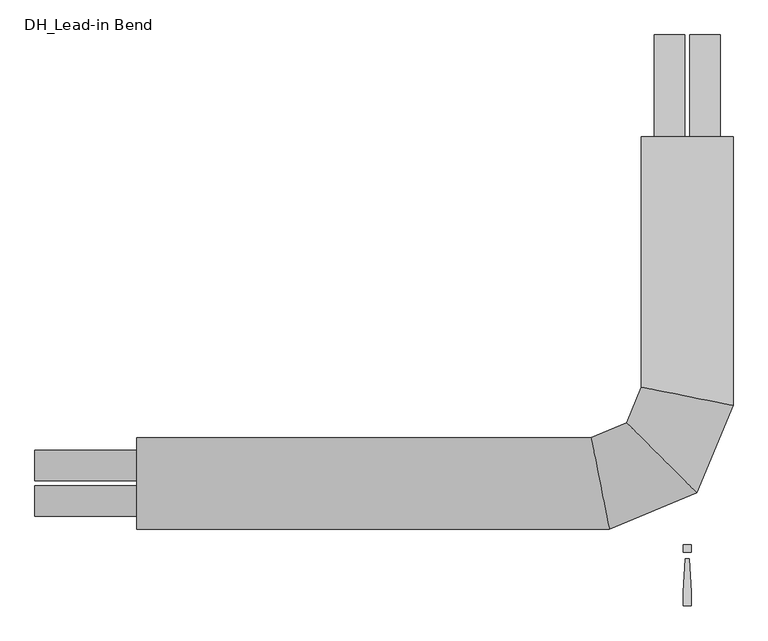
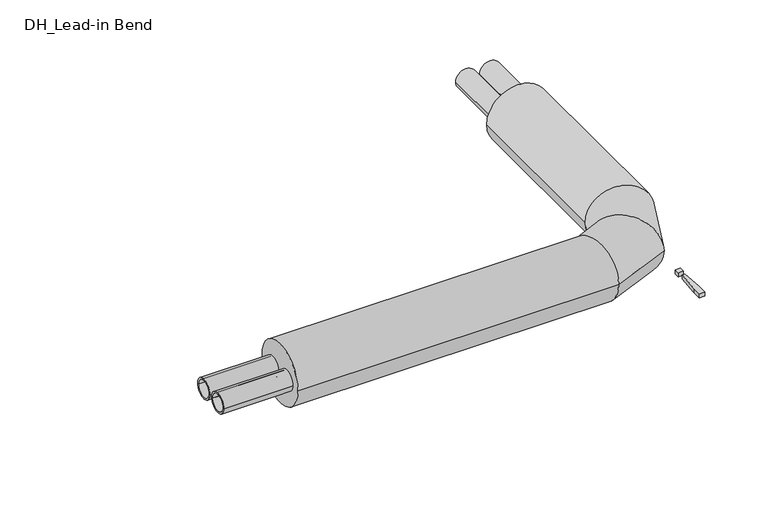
"""IFC4 building model written with IfcOpenShell, lengths in millimetres: pipe fitting geometry, DH_Lead-in Bend : RVT/RVX/RTX DUO 11 Heating Vertical."""

from ifc_helpers import new_model, si_unit, point, frame, frame_2d, origin, origin_with_axes, place, context, project, spatial, polyline, circle_curve, ellipse_curve, trimmed, segment, composite_curve, outline, extrude, source, transform, mapped, element, save
from ifc_brep_helpers import plane_surface, cylinder_surface, advanced_brep


def dh_lead_in_bend_53604a29(model_context):
    return source(origin(), model_context, "Body", "SolidModel", [
        extrude(outline(composite_curve([segment(trimmed(circle_curve(frame_2d((-43.5, 0.0)), 37.5), [point((-6.0, 0.0))], [point((-81.0, 0.0))], False, "CARTESIAN"), True, "CONTINUOUS"), segment(trimmed(circle_curve(frame_2d((-43.5, 0.0)), 37.5), [point((-81.0, 0.0))], [point((-6.0, 0.0))], False, "CARTESIAN"), True, "CONTINUOUS")], self_intersect=False), holes=[composite_curve([segment(trimmed(circle_curve(frame_2d((-43.5, 0.0)), 30.7), [point((-12.8, 0.0))], [point((-74.2, 0.0))], True, "CARTESIAN"), True, "CONTINUOUS"), segment(trimmed(circle_curve(frame_2d((-43.5, 0.0)), 30.7), [point((-74.2, 0.0))], [point((-12.8, 0.0))], True, "CARTESIAN"), True, "CONTINUOUS")], self_intersect=False)]), frame((-1600.0, 0.0, 0.0), z_axis=(1.0, 0.0, 0.0), x_axis=(0.0, 1.0, 0.0)), (0.0, 0.0, 1.0), 250.0),
        extrude(outline(composite_curve([segment(trimmed(circle_curve(frame_2d((0.0, -43.5)), 37.5), [point((0.0, -6.0))], [point((0.0, -81.0))], False, "CARTESIAN"), True, "CONTINUOUS"), segment(trimmed(circle_curve(frame_2d((0.0, -43.5)), 37.5), [point((0.0, -81.0))], [point((0.0, -6.0))], False, "CARTESIAN"), True, "CONTINUOUS")], self_intersect=False), holes=[composite_curve([segment(trimmed(circle_curve(frame_2d((0.0, -43.5)), 30.7), [point((0.0, -12.8))], [point((0.0, -74.2))], True, "CARTESIAN"), True, "CONTINUOUS"), segment(trimmed(circle_curve(frame_2d((0.0, -43.5)), 30.7), [point((0.0, -74.2))], [point((0.0, -12.8))], True, "CARTESIAN"), True, "CONTINUOUS")], self_intersect=False)]), frame((0.0, 850.0, 0.0), z_axis=(0.0, 1.0, 0.0), x_axis=(0.0, 0.0, 1.0)), (0.0, 0.0, 1.0), 250.0),
        advanced_brep(
        [(-1350.0, -112.5, 0.0), (-1350.0, 112.5, 0.0), (-191.3223587, -112.5, 0.0), (-236.0776413, 112.5, 0.0), (112.5, 850.0, 0.0), (-112.5, 850.0, 0.0), (-112.5, 236.0776413, 0.0), (112.5, 191.3223587, 0.0), (23.5124914, -23.5124914, 0.0), (-148.6950531, 148.6950531, 0.0)],
        [
            (0, 1, circle_curve(frame((-1350.0, 0.0, 0.0), z_axis=(-1.0, 0.0, 0.0), x_axis=(0.0, 1.0, 0.0)), 112.5)),
            (1, 0, circle_curve(frame((-1350.0, 0.0, 0.0), z_axis=(-1.0, 0.0, 0.0), x_axis=(0.0, 1.0, 0.0)), 112.5)),
            (0, 2),
            (2, 3, ellipse_curve(frame((-213.7, 0.0, 0.0), z_axis=(-0.9807852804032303, -0.19509032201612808, 0.0), x_axis=(-0.19509032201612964, 0.9807852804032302, 0.0)), 114.7040053, 112.5)),
            (3, 1),
            (3, 2, ellipse_curve(frame((-213.7, 0.0, 0.0), z_axis=(-0.9807852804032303, -0.19509032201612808, 0.0), x_axis=(-0.19509032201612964, 0.9807852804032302, 0.0)), 114.7040053, 112.5)),
            (4, 5, circle_curve(frame((0.0, 850.0, 0.0), z_axis=(0.0, 1.0, 0.0), x_axis=(-1.0, 0.0, 0.0)), 112.5)),
            (5, 4, circle_curve(frame((0.0, 850.0, 0.0), z_axis=(0.0, 1.0, 0.0), x_axis=(-1.0, 0.0, 0.0)), 112.5)),
            (6, 7, ellipse_curve(frame((0.0, 213.7, 0.0), z_axis=(0.19509032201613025, 0.98078528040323, 0.0), x_axis=(0.9807852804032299, -0.19509032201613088, 0.0)), 114.7040053, 112.5)),
            (7, 4),
            (5, 6),
            (7, 6, ellipse_curve(frame((0.0, 213.7, 0.0), z_axis=(0.19509032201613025, 0.98078528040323, 0.0), x_axis=(0.9807852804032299, -0.19509032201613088, 0.0)), 114.7040053, 112.5)),
            (2, 8),
            (8, 9, ellipse_curve(frame((-62.5912809, 62.5912809, 0.0), z_axis=(-0.707106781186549, -0.707106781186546, 0.0), x_axis=(-0.7071067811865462, 0.7071067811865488, 0.0)), 121.7691225, 112.5)),
            (9, 3),
            (9, 8, ellipse_curve(frame((-62.5912809, 62.5912809, 0.0), z_axis=(-0.707106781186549, -0.707106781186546, 0.0), x_axis=(-0.7071067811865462, 0.7071067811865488, 0.0)), 121.7691225, 112.5)),
            (8, 7),
            (6, 9),
        ],
        [
            plane_surface(frame((-1350.0, 0.0, 0.0), z_axis=(-1.0, 0.0, 0.0), x_axis=(0.0, 0.0, 1.0))),
            cylinder_surface(frame((-1350.0, 0.0, 0.0), z_axis=(-1.0, 0.0, 0.0), x_axis=(0.0, 1.0, 0.0)), 112.5),
            plane_surface(frame((0.0, 850.0, 0.0), z_axis=(0.0, 1.0, 0.0), x_axis=(0.0, 0.0, 1.0))),
            cylinder_surface(frame((0.0, 213.7, 0.0), z_axis=(0.0, -1.0, 0.0), x_axis=(-1.0, 0.0, 0.0)), 112.5),
            cylinder_surface(frame((-213.7, 0.0, 0.0), z_axis=(-0.9238795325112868, -0.3826834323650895, 0.0), x_axis=(-0.3826834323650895, 0.9238795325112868, 0.0)), 112.5),
            cylinder_surface(frame((-62.5912809, 62.5912809, 0.0), z_axis=(-0.38268343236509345, -0.9238795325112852, 0.0), x_axis=(-0.9238795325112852, 0.38268343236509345, 0.0)), 112.5),
        ],
        [
            (0, [[1, 2]]),
            (1, [[-1, 3, 4, 5]]),
            (1, [[-2, -5, 6, -3]]),
            (2, [[7, 8]]),
            (3, [[9, 10, -8, 11]]),
            (3, [[12, -11, -7, -10]]),
            (4, [[-4, 13, 14, 15]]),
            (4, [[-6, -15, 16, -13]]),
            (5, [[-14, 17, -9, 18]]),
            (5, [[-16, -18, -12, -17]]),
        ],
    ),
        extrude(outline(composite_curve([segment(trimmed(circle_curve(frame_2d((43.5, 0.0)), 37.5), [point((6.0, 0.0))], [point((81.0, 0.0))], False, "CARTESIAN"), True, "CONTINUOUS"), segment(trimmed(circle_curve(frame_2d((43.5, 0.0)), 37.5), [point((81.0, 0.0))], [point((6.0, 0.0))], False, "CARTESIAN"), True, "CONTINUOUS")], self_intersect=False), holes=[composite_curve([segment(trimmed(circle_curve(frame_2d((43.5, 0.0)), 30.7), [point((12.8, 0.0))], [point((74.2, 0.0))], True, "CARTESIAN"), True, "CONTINUOUS"), segment(trimmed(circle_curve(frame_2d((43.5, 0.0)), 30.7), [point((74.2, 0.0))], [point((12.8, 0.0))], True, "CARTESIAN"), True, "CONTINUOUS")], self_intersect=False)]), frame((-1600.0, 0.0, 0.0), z_axis=(1.0, 0.0, 0.0), x_axis=(0.0, 1.0, 0.0)), (0.0, 0.0, 1.0), 250.0),
        extrude(outline(composite_curve([segment(trimmed(circle_curve(frame_2d((0.0, 43.5)), 37.5), [point((0.0, 6.0))], [point((0.0, 81.0))], False, "CARTESIAN"), True, "CONTINUOUS"), segment(trimmed(circle_curve(frame_2d((0.0, 43.5)), 37.5), [point((0.0, 81.0))], [point((0.0, 6.0))], False, "CARTESIAN"), True, "CONTINUOUS")], self_intersect=False), holes=[composite_curve([segment(trimmed(circle_curve(frame_2d((0.0, 43.5)), 30.7), [point((0.0, 12.8))], [point((0.0, 74.2))], True, "CARTESIAN"), True, "CONTINUOUS"), segment(trimmed(circle_curve(frame_2d((0.0, 43.5)), 30.7), [point((0.0, 74.2))], [point((0.0, 12.8))], True, "CARTESIAN"), True, "CONTINUOUS")], self_intersect=False)]), frame((0.0, 850.0, 0.0), z_axis=(0.0, 1.0, 0.0), x_axis=(0.0, 0.0, 1.0)), (0.0, 0.0, 1.0), 250.0),
        extrude(outline(polyline([(4.7088895, -185.3166715), (9.4177791, -266.6553807), (9.4177791, -300.6844652), (-9.4177791, -300.6844652), (-9.4177791, -266.6553807), (-4.7088895, -185.3166715), (4.7088895, -185.3166715)])), origin_with_axes(), (0.0, 0.0, 1.0), 15.0),
        extrude(outline(polyline([(9.4177791, -150.0), (9.4177791, -168.8355582), (-9.4177791, -168.8355582), (-9.4177791, -150.0), (9.4177791, -150.0)])), origin_with_axes(), (0.0, 0.0, 1.0), 15.0),
    ])


if __name__ == "__main__":
    model = new_model("IFC4")
    model_context = context("Model", 3, world=origin())
    ifc_project = project(units=[si_unit("LENGTHUNIT", "METRE", prefix="MILLI")], contexts=[model_context])
    site = spatial("IfcSite", under=ifc_project)
    building = spatial("IfcBuilding", under=site)
    placement = place(None, origin())
    dh_lead_in_bend_shape = dh_lead_in_bend_53604a29(model_context)
    element("IfcPipeFitting", 1, ObjectType="DH_Lead-in Bend : RVT/RVX/RTX DUO 11 Heating Vertical", at=placement, inside=building, context=model_context, shape_type="MappedRepresentation", body=[
        mapped(dh_lead_in_bend_shape, transform((0.0, 0.0, 0.0), x_axis=(1.0, 0.0, 0.0), y_axis=(0.0, 1.0, 0.0), z_axis=(0.0, 0.0, 1.0))),
    ])
    save(model, "model.ifc")
